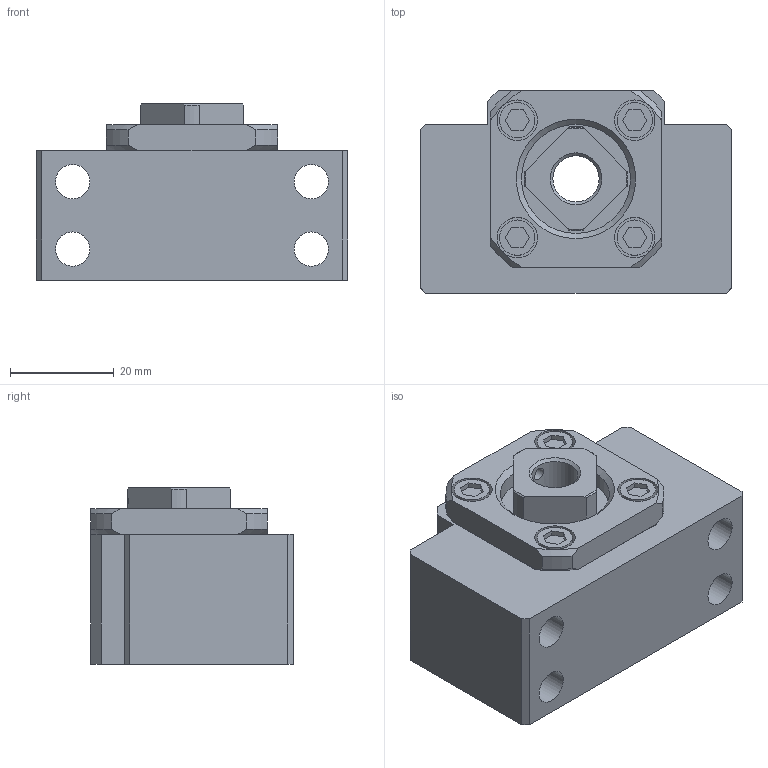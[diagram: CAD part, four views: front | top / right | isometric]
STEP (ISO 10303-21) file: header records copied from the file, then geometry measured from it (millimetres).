
FILE_DESCRIPTION(/* description */ ('STEP AP214'),/* implementation_level */ '2;1');
FILE_NAME(/* name */ 'BK10______CAD_NO_Yes',/* time_stamp */ '2026-09-17T12:58:51+02:00',/* author */ ('License CC BY-ND 4.0'),/* organization */ ('CADENAS'),/* preprocessor_version */ 'ST-DEVELOPER v20',/* originating_system */ 'PARTsolutions',/* authorisation */ ' ');
FILE_SCHEMA (('AUTOMOTIVE_DESIGN {1 0 10303 214 3 1 1}'));
Length unit declared in the file: millimetre
Products named in the file (4): BK10______CAD_NO_Yes; BK 10; BK 10collar; RN 10
Assembly tree (4 placements, depth 2):
  BK10______CAD_NO_Yes
    BK 10
    BK 10collar  x2
    RN 10
Bounding box: 60 x 39 x 34 mm (x, y, z)
Volume: 51656.1 mm3; surface area: 19423.7 mm2
Topology: 4 solids, 4 shells, 154 faces, 361 edges, 240 vertices
Faces by surface type: plane 94, cylinder 39, cone 21
Full cylindrical faces by diameter (mm): 2.459 x1, 3 x1, 6.6 x4, 6.8 x4, 7.8 x4, 8.917 x1, 10 x3, 10.8 x4, 13.9 x4, 15 x1, 21 x2, 21.1 x1
Entity records: 4316 total; most frequent: CARTESIAN_POINT 847, DIRECTION 686, ORIENTED_EDGE 636, EDGE_CURVE 318, AXIS2_PLACEMENT_3D 256, VERTEX_POINT 232, EDGE_LOOP 222, FACE_BOUND 222
